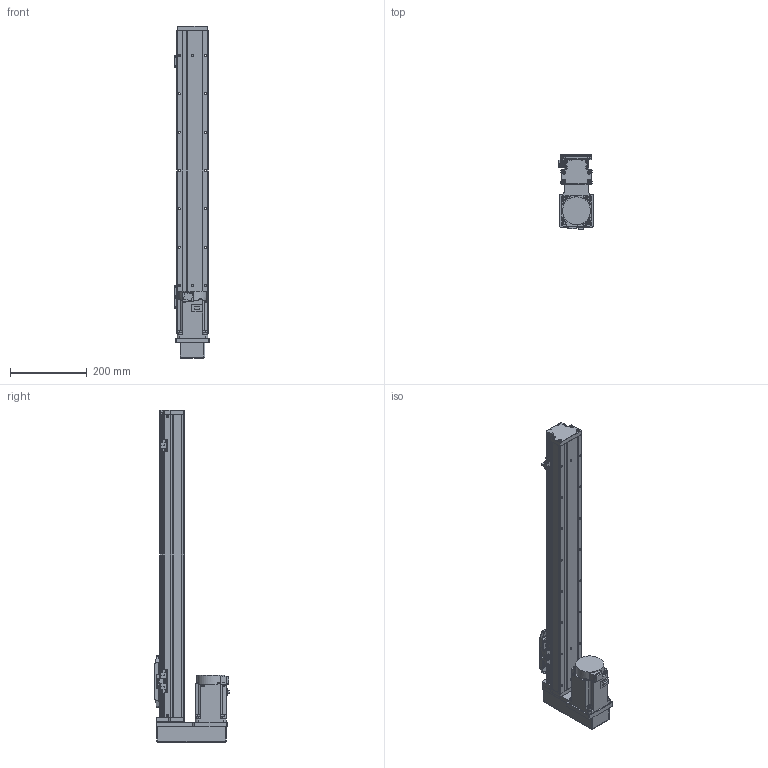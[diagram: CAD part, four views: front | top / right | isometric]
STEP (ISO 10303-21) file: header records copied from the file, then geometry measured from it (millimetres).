
FILE_DESCRIPTION (( 'STEP AP203' ), '1' );
FILE_NAME ('GTH8-600-BM-M75-C4.step', '2023-02-14T02:29:13', ( '微软用户' ), ( '微软中国' ), 'SwSTEP 2.0', 'SolidWorks 2020', '' );
FILE_SCHEMA (( 'CONFIG_CONTROL_DESIGN' ));
Length unit declared in the file: millimetre
Products named in the file (18): GTH80-022; BTH-M3X5X6; GTH80-001_600; GBT 70.1-M3℅6; CTHA86-015-3_CTHA86-015-4; GTH80-003; GBT 70.1-M4×16; CTHA86-035; GTH80-004; GTH80-028; hg-kn73j_-s100; GTH80-006; GTH50-024; GTH8-600-BM-M75-C4; GTH80-013; GTH50-023; GBT 70.3-M3℅6; GBT96.1-2002 3×0.8
Assembly tree (57 placements, depth 2):
  GTH8-600-BM-M75-C4
    GTH80-001_600
    GTH80-003
    GTH80-004
    GTH80-006
    GTH80-013
    GBT 70.3-M3℅6  x4
    GTH80-022
    GBT 70.1-M3℅6  x14
    GBT 70.1-M4×16  x8
    GTH80-028  x2
    GTH50-024  x3
    GTH50-023  x3
    GBT96.1-2002 3×0.8  x6
    BTH-M3X5X6  x8
    CTHA86-015-3_CTHA86-015-4
    CTHA86-035
    hg-kn73j_-s100
Bounding box: 89.4 x 195.3 x 866 mm (x, y, z)
Volume: 4967013.1 mm3; surface area: 505443.7 mm2
Topology: 59 solids, 59 shells, 2195 faces, 5094 edges, 3120 vertices
Faces by surface type: plane 1153, cylinder 627, cone 243, torus 158, sphere 12, bspline 2
Entity records: 39588 total; most frequent: CARTESIAN_POINT 6647, DIRECTION 6529, ORIENTED_EDGE 5998, EDGE_CURVE 2999, AXIS2_PLACEMENT_3D 2302, VECTOR 1925, LINE 1925, VERTEX_POINT 1895
